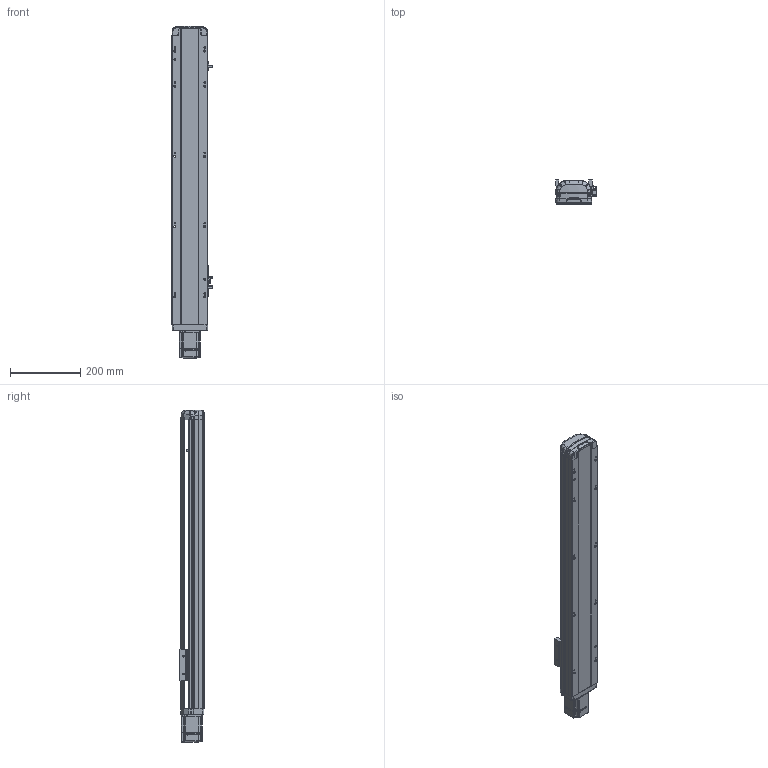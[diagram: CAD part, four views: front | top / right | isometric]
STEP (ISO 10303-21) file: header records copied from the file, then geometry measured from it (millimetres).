
FILE_DESCRIPTION (( 'STEP AP214' ), '1' );
FILE_NAME ('RTH10-XX-600-E-M20-C4.STEP', '2025-10-24T10:45:57', ( '' ), ( '' ), 'SwSTEP 2.0', 'SolidWorks 2018', '' );
FILE_SCHEMA (( 'AUTOMOTIVE_DESIGN' ));
Length unit declared in the file: millimetre
Products named in the file (9): N_RTH12-E-011P-臏倰第菁釱^RTH10-XX-XX-E-M20-C4ㄗ源最宒ㄘ; N_RTH12-GY-004-滑座^RTH10-XX-XX-E-M20-C4（方程式）; N_RTH12-GY-001P^RTH10-XX-XX-E-M20-C4（方程式）; RTH10-XX-600-E-M20-C4; N_RTH12-E-008-M20电机板^RTH10-XX-XX-E-M20-C4（方程式）; N_OMRON EE-SX672 換覜ん^RTH10-XX-XX-E-M20-C4ㄗ源最宒ㄘ; N_200W-1^RTH10-XX-XX-E-M20-C4（方程式）; N_RTH13-L-012感应片外置^RTH10-XX-XX-E-M20-C4（方程式）; N_RTH12-E-007P-奻裔^RTH10-XX-XX-E-M20-C4ㄗ源最宒ㄘ
Assembly tree (10 placements, depth 2):
  RTH10-XX-600-E-M20-C4
    N_RTH12-E-011P-臏倰第菁釱^RTH10-XX-XX-E-M20-C4ㄗ源最宒ㄘ
    N_RTH13-L-012感应片外置^RTH10-XX-XX-E-M20-C4（方程式）
    N_OMRON EE-SX672 換覜ん^RTH10-XX-XX-E-M20-C4ㄗ源最宒ㄘ  x3
    N_RTH12-E-007P-奻裔^RTH10-XX-XX-E-M20-C4ㄗ源最宒ㄘ
    N_RTH12-GY-001P^RTH10-XX-XX-E-M20-C4（方程式）
    N_RTH12-GY-004-滑座^RTH10-XX-XX-E-M20-C4（方程式）
    N_200W-1^RTH10-XX-XX-E-M20-C4（方程式）
    N_RTH12-E-008-M20电机板^RTH10-XX-XX-E-M20-C4（方程式）
Bounding box: 116.5 x 70 x 945.14 mm (x, y, z)
Volume: 3618472.9 mm3; surface area: 568291.6 mm2
Topology: 9 solids, 11 shells, 2008 faces, 5584 edges, 3666 vertices
Faces by surface type: plane 1008, cylinder 493, bspline 472, cone 33, torus 2
Entity records: 60434 total; most frequent: CARTESIAN_POINT 23530, ORIENTED_EDGE 8248, DIRECTION 6420, EDGE_CURVE 4130, VERTEX_POINT 2710, LINE 2228, VECTOR 2228, AXIS2_PLACEMENT_3D 2096
